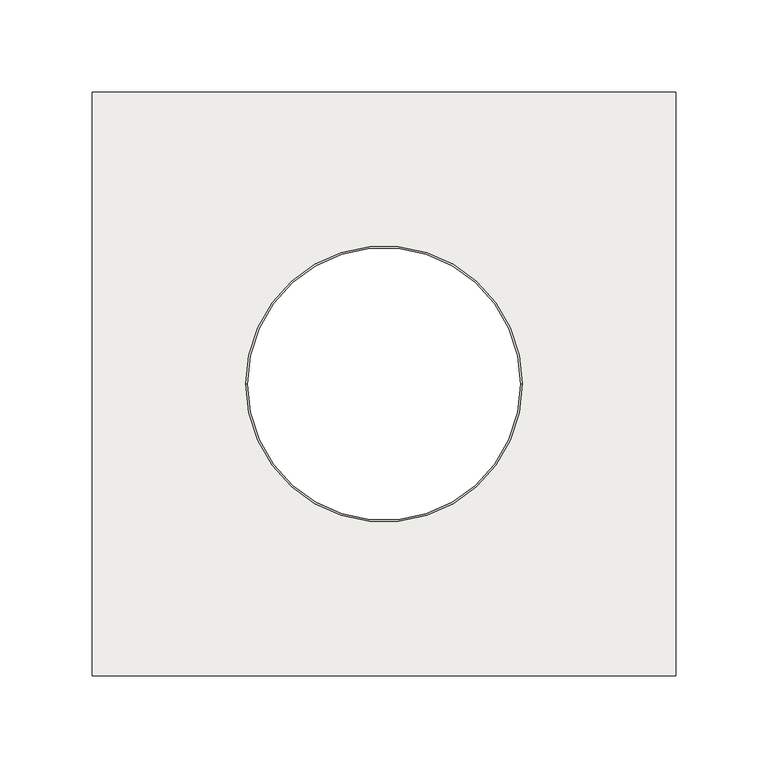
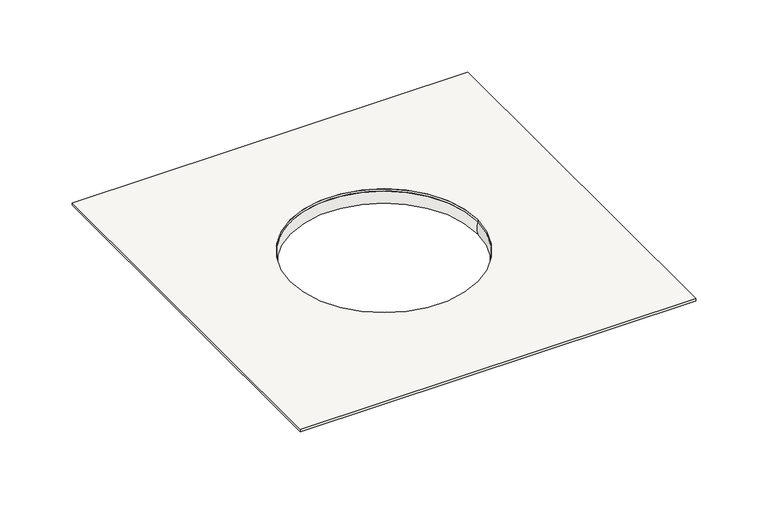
"""IFC4 building model written with IfcOpenShell, lengths in millimetres: covering geometry, Z_DO_NOT_USE_NLRS_PF_52_UN_WPS Aqua Brilliant_Easydrain : Aqua Brilliant met tegelbakje."""

from ifc_helpers import new_model, si_unit, point, frame, origin, origin_2d, place, context, project, spatial, polyline, circle_curve, ellipse_curve, trimmed, segment, composite_curve, outline, extrude, source, transform, mapped, element, save
from ifc_brep_helpers import plane_surface, cylinder_surface, revolved_surface, advanced_brep


def covering_e9c5ec6c(model_context):
    return source(origin(), model_context, "Body", "SolidModel", [
        advanced_brep(
        [(75.0, 0.0, -11.0), (-75.0, 0.0, -11.0), (-80.0, 0.0, -11.0), (80.0, 0.0, -11.0), (75.0, 0.0, -1.0), (-75.0, 0.0, -1.0), (80.0, 0.0, -1.0), (-80.0, 0.0, -1.0)],
        [
            (0, 1, circle_curve(frame((0.0, 0.0, -11.0), z_axis=(0.0, 0.0, 1.0), x_axis=(-1.0, 0.0, 0.0)), 75.0)),
            (1, 2),
            (2, 3, circle_curve(frame((0.0, 0.0, -11.0), z_axis=(0.0, 0.0, -1.0), x_axis=(-1.0, 0.0, 0.0)), 80.0)),
            (3, 0),
            (1, 0, circle_curve(frame((0.0, 0.0, -11.0), z_axis=(0.0, 0.0, 1.0), x_axis=(-1.0, 0.0, 0.0)), 75.0)),
            (3, 2, circle_curve(frame((0.0, 0.0, -11.0), z_axis=(0.0, 0.0, -1.0), x_axis=(-1.0, 0.0, 0.0)), 80.0)),
            (4, 5, circle_curve(frame((0.0, 0.0, -1.0), z_axis=(0.0, 0.0, 1.0), x_axis=(-1.0, 0.0, 0.0)), 75.0)),
            (5, 1, circle_curve(frame((-89.8435022, 0.0, -6.0), z_axis=(0.0, 1.0, 0.0), x_axis=(1.0, 0.0, 0.0)), 15.6629997)),
            (0, 4, circle_curve(frame((89.8435022, 0.0, -6.0), z_axis=(0.0, 1.0, 0.0), x_axis=(-1.0, 0.0, 0.0)), 15.6629997)),
            (5, 4, circle_curve(frame((0.0, 0.0, -1.0), z_axis=(0.0, 0.0, 1.0), x_axis=(-1.0, 0.0, 0.0)), 75.0)),
            (6, 7, circle_curve(frame((0.0, 0.0, -1.0), z_axis=(0.0, 0.0, 1.0), x_axis=(-1.0, 0.0, 0.0)), 80.0)),
            (7, 5),
            (4, 6),
            (7, 6, circle_curve(frame((0.0, 0.0, -1.0), z_axis=(0.0, 0.0, 1.0), x_axis=(-1.0, 0.0, 0.0)), 80.0)),
            (2, 7),
            (6, 3),
        ],
        [
            plane_surface(frame((0.0, 0.0, -11.0), z_axis=(0.0, 0.0, -1.0), x_axis=(-1.0, 0.0, 0.0))),
            revolved_surface(trimmed(ellipse_curve(frame((-89.8435022, 0.0, -6.0), z_axis=(0.0, -1.0, 0.0), x_axis=(1.0, 0.0, 0.0)), 15.6629997, 15.6629997), [point((-75.0, 0.0, -11.0))], [point((-75.0, 0.0, -1.0))], True, "CARTESIAN"), (0.0, 0.0, 9.0), (0.0, 0.0, -1.0)),
            plane_surface(frame((0.0, 0.0, -1.0), z_axis=(0.0, 0.0, 1.0), x_axis=(-1.0, 0.0, 0.0))),
            cylinder_surface(frame((0.0, 0.0, 9.0), z_axis=(0.0, 0.0, -1.0), x_axis=(-1.0, 0.0, 0.0)), 80.0),
        ],
        [
            (0, [[1, 2, 3, 4]]),
            (0, [[5, -4, 6, -2]]),
            (1, [[7, 8, -1, 9]]),
            (1, [[10, -9, -5, -8]]),
            (2, [[11, 12, -7, 13]]),
            (2, [[14, -13, -10, -12]]),
            (3, [[-3, 15, -11, 16]]),
            (3, [[-6, -16, -14, -15]]),
        ],
    ),
        extrude(outline(polyline([(-158.5, 158.5), (158.5, 158.5), (158.5, -158.5), (-158.5, -158.5), (-158.5, 158.5)]), holes=[composite_curve([segment(trimmed(circle_curve(origin_2d(), 75.0), [point((-75.0, 0.0))], [point((75.0, 0.0))], True, "CARTESIAN"), True, "CONTINUOUS"), segment(trimmed(circle_curve(origin_2d(), 75.0), [point((75.0, 0.0))], [point((-75.0, 0.0))], True, "CARTESIAN"), True, "CONTINUOUS")], self_intersect=False)]), frame((0.0, 0.0, -1.0), z_axis=(0.0, 0.0, 1.0), x_axis=(1.0, 0.0, 0.0)), (0.0, 0.0, 1.0), 2.0),
    ])


if __name__ == "__main__":
    model = new_model("IFC4")
    model_context = context("Model", 3, world=origin())
    ifc_project = project(units=[si_unit("LENGTHUNIT", "METRE", prefix="MILLI")], contexts=[model_context])
    site = spatial("IfcSite", under=ifc_project)
    building = spatial("IfcBuilding", under=site)
    placement = place(None, origin())
    covering_shape = covering_e9c5ec6c(model_context)
    element("IfcCovering", 1, ObjectType="Z_DO_NOT_USE_NLRS_PF_52_UN_WPS Aqua Brilliant_Easydrain : Aqua Brilliant met tegelbakje", at=placement, inside=building, context=model_context, shape_type="MappedRepresentation", body=[
        mapped(covering_shape, transform((0.0, 0.0, 0.0), x_axis=(1.0, 0.0, 0.0), y_axis=(0.0, 1.0, 0.0), z_axis=(0.0, 0.0, 1.0))),
    ])
    save(model, "model.ifc")
